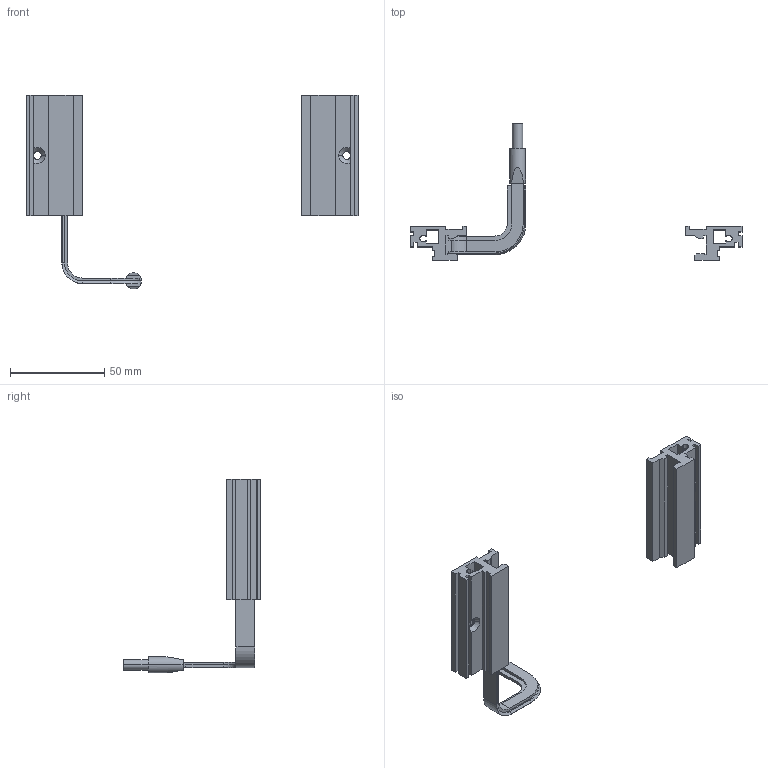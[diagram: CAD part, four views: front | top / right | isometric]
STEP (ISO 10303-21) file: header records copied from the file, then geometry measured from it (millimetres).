
FILE_DESCRIPTION (( 'STEP AP214' ), '1' );
FILE_NAME ('Traversenpaar fuer Rueckwandmontage.STEP', '2010-09-27T09:13:28', ( 'Grass' ), ( '' ), 'SwSTEP 2.0', 'SolidWorks 2010', '' );
FILE_SCHEMA (( 'AUTOMOTIVE_DESIGN' ));
Length unit declared in the file: millimetre
Products named in the file (1): Traversenpaar fuer Rueckwandmontage
Bounding box: 176 x 72.5 x 102.75 mm (x, y, z)
Volume: 36200.8 mm3; surface area: 24793.3 mm2
Topology: 2 solids, 2 shells, 139 faces, 413 edges, 272 vertices
Faces by surface type: plane 109, cylinder 24, cone 6
Entity records: 4846 total; most frequent: CARTESIAN_POINT 1035, ORIENTED_EDGE 826, DIRECTION 731, EDGE_CURVE 413, LINE 339, VECTOR 339, VERTEX_POINT 272, AXIS2_PLACEMENT_3D 196
